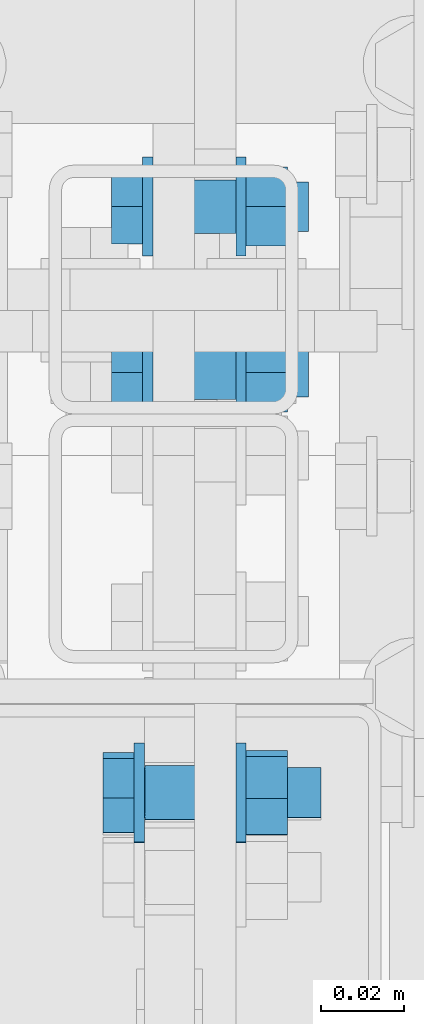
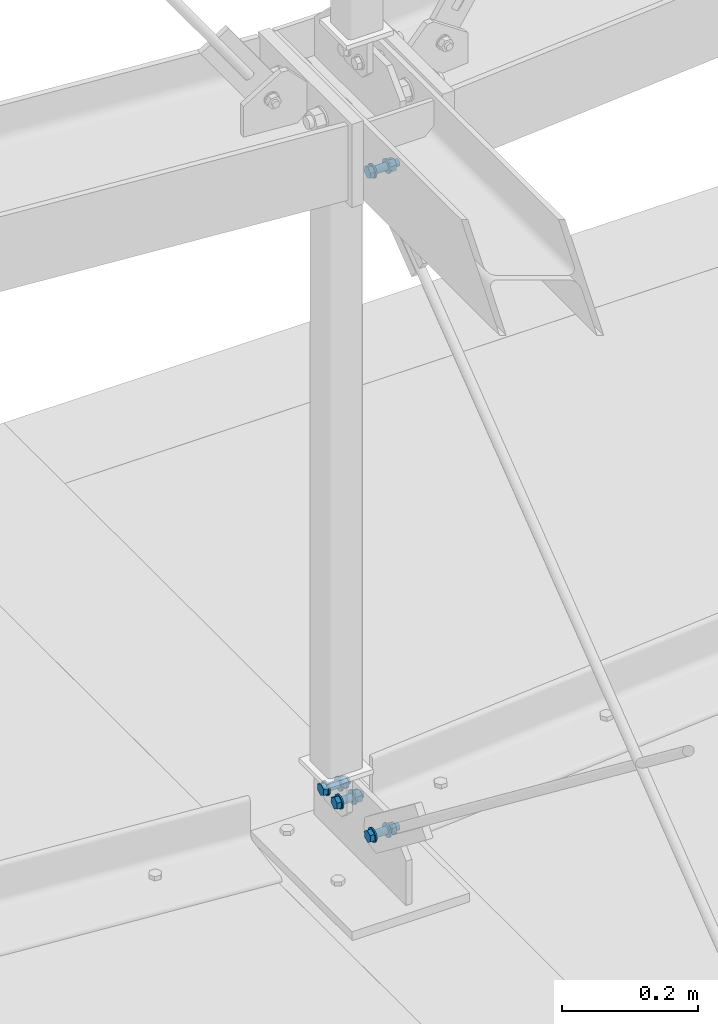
# One storey, part 243 of 271: 3 mechanical fasteners, 3 elements without a shape of their own.
"""IFC2X3 building model written with IfcOpenShell, lengths in millimetres."""

from ifc_helpers import new_model, si_unit, frame, origin_with_axes, origin_2d_with_axis, place, context, subcontext, project, spatial, polyline, circle, outline, extrude, source, transform, mapped, material, type_object, element, aggregate, save


model = new_model("IFC2X3")

# Units and contexts
model_context = context("Model", 3, precision=1e-05, world=origin_with_axes())
body_context = subcontext(model_context, "Body", "Model", "MODEL_VIEW")
ifc_project = project(units=[si_unit("LENGTHUNIT", "METRE", prefix="MILLI"), si_unit("AREAUNIT", "SQUARE_METRE"), si_unit("VOLUMEUNIT", "CUBIC_METRE"), si_unit("MASSUNIT", "GRAM", prefix="KILO"), si_unit("TIMEUNIT", "SECOND"), si_unit("PLANEANGLEUNIT", "RADIAN"), si_unit("SOLIDANGLEUNIT", "STERADIAN"), si_unit("THERMODYNAMICTEMPERATUREUNIT", "DEGREE_CELSIUS"), si_unit("LUMINOUSINTENSITYUNIT", "LUMEN")], contexts=[model_context])

# Site, building, storey
site_placement = place(None, origin_with_axes())
site = spatial("IfcSite", under=ifc_project, at=site_placement, Name="Undefined", CompositionType="ELEMENT")
building_placement = place(site_placement, origin_with_axes())
building = spatial("IfcBuilding", under=site, at=building_placement, Name="Undefined", CompositionType="ELEMENT")
storey_placement = place(building_placement, origin_with_axes())
storey = spatial("IfcBuildingStorey", under=building, at=storey_placement, Name="Undefined", CompositionType="ELEMENT", Elevation=0.0)

# Assembly, mechanical fastener
assembly_1_placement = place(storey_placement, origin_with_axes())
assembly_1 = element("IfcElementAssembly", 1, at=assembly_1_placement, inside=storey, AssemblyPlace="NOTDEFINED", PredefinedType="RIGID_FRAME")
ifc_material = material(Name="Undefined")
mechanical_fastener_type = type_object("IfcMechanicalFastenerType", Name="Bolt assembly")
shared_shape_1 = source(origin_with_axes(), body_context, "Body", "SweptSolid", [
    extrude(circle(Radius=6.5, at=origin_2d_with_axis()), frame((0.0, -16.9, 0.0), z_axis=(0.0, 1.0, 0.0), x_axis=(1.0, 0.0, 0.0)), (0.0, 0.0, 1.0), 12.0),
    extrude(circle(Radius=6.5, at=origin_2d_with_axis()), frame((0.0, -5.1, 0.0), z_axis=(0.0, 1.0, 0.0), x_axis=(1.0, 0.0, 0.0)), (0.0, 0.0, 1.0), 10.1),
    extrude(outline(polyline([(10.39230484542, 0.0), (5.19615242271, 9.00000000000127), (-5.19615242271, 9.00000000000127), (-10.39230484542, 0.0), (-5.19615242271, -9.00000000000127), (5.19615242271, -9.00000000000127), (10.39230484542, 0.0)])), frame((0.0, -27.0, 0.0), z_axis=(0.0, 1.0, 0.0), x_axis=(1.0, 0.0, 0.0)), (0.0, 0.0, 1.0), 7.5),
    extrude(circle(Radius=6.0, at=origin_2d_with_axis()), frame((0.0, -19.5, 0.0), z_axis=(0.0, 1.0, 0.0), x_axis=(1.0, 0.0, 0.0)), (0.0, 0.0, 1.0), 45.0),
    extrude(circle(Radius=12.0, at=origin_2d_with_axis()), frame((0.0, -19.5, 0.0), z_axis=(0.0, 1.0, 0.0), x_axis=(1.0, 0.0, 0.0)), (0.0, 0.0, 1.0), 2.5),
    extrude(circle(Radius=12.0, at=origin_2d_with_axis()), frame((0.0, 5.00000000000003, 0.0), z_axis=(0.0, 1.0, 0.0), x_axis=(1.0, 0.0, 0.0)), (0.0, 0.0, 1.0), 2.5),
    extrude(outline(polyline([(10.96965511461, 0.0), (5.484827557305, 9.50000000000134), (-5.484827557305, 9.50000000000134), (-10.96965511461, 0.0), (-5.484827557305, -9.50000000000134), (5.484827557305, -9.50000000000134), (10.96965511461, 0.0)])), frame((0.0, 7.50000000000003, 0.0), z_axis=(0.0, 1.0, 0.0), x_axis=(1.0, 0.0, 0.0)), (0.0, 0.0, 1.0), 10.0),
])
mechanical_fastener_1_placement = place(assembly_1_placement, frame((6358.37568798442, 3643.51576367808, 86.2488079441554), z_axis=(0.0, 0.609061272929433, 0.793123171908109), x_axis=(0.0, -0.793123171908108, 0.609061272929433)))
mechanical_fastener_1 = element("IfcMechanicalFastener", 2, at=mechanical_fastener_1_placement, type_object=mechanical_fastener_type, material=ifc_material, Name="Bolt assembly", NominalDiameter=12.0, NominalLength=45.0, context=body_context, shape_type="MappedRepresentation", body=[
    mapped(shared_shape_1, transform((0.0, 0.0, 0.0))),
])
aggregate(assembly_1, [mechanical_fastener_1])

assembly_2_placement = place(storey_placement, origin_with_axes())
assembly_2 = element("IfcElementAssembly", 3, at=assembly_2_placement, inside=storey, AssemblyPlace="NOTDEFINED", PredefinedType="RIGID_FRAME")
mechanical_fastener_2_placement = place(assembly_2_placement, frame((6358.37568798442, 3643.70214207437, 1282.15138031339), z_axis=(0.0, -0.611027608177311, 0.791609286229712), x_axis=(0.0, -0.791609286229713, -0.611027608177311)))
mechanical_fastener_2 = element("IfcMechanicalFastener", 4, at=mechanical_fastener_2_placement, type_object=mechanical_fastener_type, material=ifc_material, Name="Bolt assembly", NominalDiameter=12.0, NominalLength=45.0, context=body_context, shape_type="MappedRepresentation", body=[
    mapped(shared_shape_1, transform((0.0, 0.0, 0.0))),
])
aggregate(assembly_2, [mechanical_fastener_2])

assembly_3_placement = place(storey_placement, origin_with_axes())
assembly_3 = element("IfcElementAssembly", 5, at=assembly_3_placement, inside=storey, AssemblyPlace="NOTDEFINED", PredefinedType="RIGID_FRAME")
shared_shape_2 = source(origin_with_axes(), body_context, "Body", "SweptSolid", [
    extrude(circle(Radius=6.5, at=origin_2d_with_axis()), frame((0.0, -5.1, 0.0), z_axis=(0.0, 1.0, 0.0), x_axis=(1.0, 0.0, 0.0)), (0.0, 0.0, 1.0), 10.1),
    extrude(circle(Radius=6.5, at=origin_2d_with_axis()), frame((0.0, -14.9000000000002, 0.0), z_axis=(0.0, 1.0, 0.0), x_axis=(1.0, 0.0, 0.0)), (0.0, 0.0, 1.0), 10.0),
    extrude(outline(polyline([(10.39230484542, 0.0), (5.19615242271, 9.00000000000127), (-5.19615242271, 9.00000000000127), (-10.39230484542, 0.0), (-5.19615242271, -9.00000000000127), (5.19615242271, -9.00000000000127), (10.39230484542, 0.0)])), frame((0.0, -25.0000000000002, 0.0), z_axis=(0.0, 1.0, 0.0), x_axis=(1.0, 0.0, 0.0)), (0.0, 0.0, 1.0), 7.5),
    extrude(circle(Radius=6.0, at=origin_2d_with_axis()), frame((0.0, -17.5000000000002, 0.0), z_axis=(0.0, 1.0, 0.0), x_axis=(1.0, 0.0, 0.0)), (0.0, 0.0, 1.0), 40.0),
    extrude(circle(Radius=12.0, at=origin_2d_with_axis()), frame((0.0, -17.5000000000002, 0.0), z_axis=(0.0, 1.0, 0.0), x_axis=(1.0, 0.0, 0.0)), (0.0, 0.0, 1.0), 2.5),
    extrude(circle(Radius=12.0, at=origin_2d_with_axis()), frame((0.0, 5.00000000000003, 0.0), z_axis=(0.0, 1.0, 0.0), x_axis=(1.0, 0.0, 0.0)), (0.0, 0.0, 1.0), 2.5),
    extrude(outline(polyline([(10.96965511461, 0.0), (5.484827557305, 9.50000000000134), (-5.484827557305, 9.50000000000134), (-10.96965511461, 0.0), (-5.484827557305, -9.50000000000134), (5.484827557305, -9.50000000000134), (10.96965511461, 0.0)])), frame((0.0, 7.50000000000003, 0.0), z_axis=(0.0, 1.0, 0.0), x_axis=(1.0, 0.0, 0.0)), (0.0, 0.0, 1.0), 10.0),
])
mechanical_fastener_3_placement = place(assembly_3_placement, frame((6358.37568736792, 3764.92439872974, 84.0999999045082), z_axis=(0.0, 1.0, 0.0), x_axis=(0.0, 0.0, 1.0)))
mechanical_fastener_3 = element("IfcMechanicalFastener", 6, at=mechanical_fastener_3_placement, type_object=mechanical_fastener_type, material=ifc_material, Name="Bolt assembly", NominalDiameter=12.0, NominalLength=40.0, context=body_context, shape_type="MappedRepresentation", body=[
    mapped(shared_shape_2, transform((0.0, 0.0, 20.0))),
    mapped(shared_shape_2, transform((0.0, 0.0, -20.0))),
])
aggregate(assembly_3, [mechanical_fastener_3])

save(model, "model.ifc")
